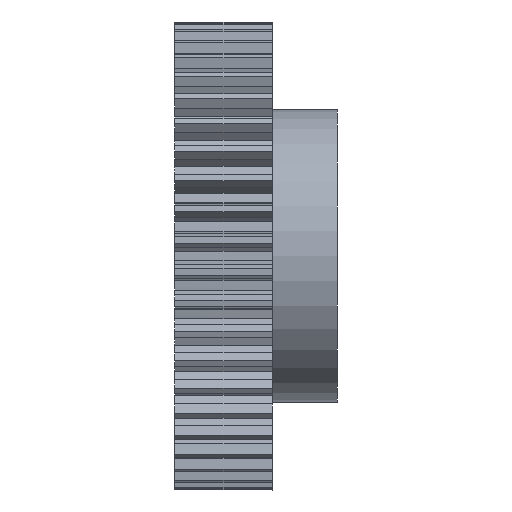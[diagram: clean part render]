
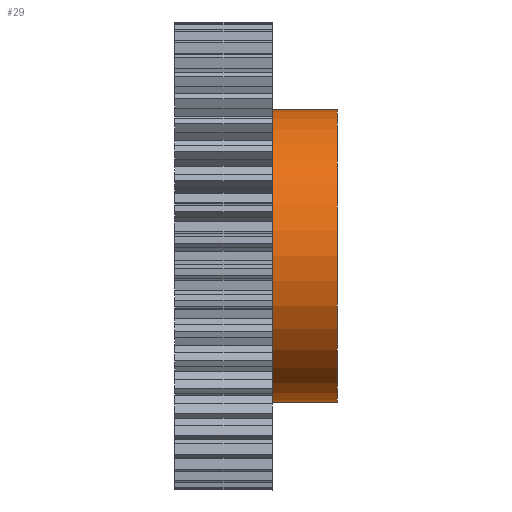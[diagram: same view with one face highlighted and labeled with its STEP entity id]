
A CAD part, front view. The second image highlights one B-rep face of the part: STEP entity #29.
In plain terms, the highlighted cylindrical face has radius 45 mm (diameter 90 mm), a partial arc.
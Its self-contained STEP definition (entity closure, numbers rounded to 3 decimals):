
#17 = ORIENTED_EDGE ( 'NONE', *, *, #1112, .T. ) ;
#28 = ORIENTED_EDGE ( 'NONE', *, *, #9513, .T. ) ;
#29 = ADVANCED_FACE ( 'NONE', ( #5233 ), #5229, .T. ) ;
#265 = EDGE_CURVE ( 'NONE', #1141, #1996, #5661, .T. ) ;
#1112 = EDGE_CURVE ( 'NONE', #1155, #1156, #7057, .T. ) ;
#1139 = EDGE_CURVE ( 'NONE', #1141, #1156, #7148, .T. ) ;
#1141 = VERTEX_POINT ( 'NONE', #7144 ) ;
#1155 = VERTEX_POINT ( 'NONE', #7172 ) ;
#1156 = VERTEX_POINT ( 'NONE', #7181 ) ;
#1334 = ORIENTED_EDGE ( 'NONE', *, *, #1139, .F. ) ;
#1996 = VERTEX_POINT ( 'NONE', #7833 ) ;
#4031 = DIRECTION ( 'NONE',  ( -1., 0., 0. ) ) ;
#4032 = VECTOR ( 'NONE', #4031, 1000. ) ;
#4043 = CARTESIAN_POINT ( 'NONE',  ( 15., 0., 45. ) ) ;
#4044 = LINE ( 'NONE', #4043, #4032 ) ;
#5207 = DIRECTION ( 'NONE',  ( -1., 0., 0. ) ) ;
#5221 = AXIS2_PLACEMENT_3D ( 'NONE', #5232, #5207, #5258 ) ;
#5229 = CYLINDRICAL_SURFACE ( 'NONE', #5221, 45. ) ;
#5232 = CARTESIAN_POINT ( 'NONE',  ( 15., 0., 0. ) ) ;
#5233 = FACE_OUTER_BOUND ( 'NONE', #9727, .T. ) ;
#5258 = DIRECTION ( 'NONE',  ( 0., 0., 1. ) ) ;
#5655 = DIRECTION ( 'NONE',  ( 0., 0., 1. ) ) ;
#5656 = DIRECTION ( 'NONE',  ( -1., 0., 0. ) ) ;
#5657 = CARTESIAN_POINT ( 'NONE',  ( 35., 0., 0. ) ) ;
#5658 = AXIS2_PLACEMENT_3D ( 'NONE', #5657, #5656, #5655 ) ;
#5661 = CIRCLE ( 'NONE', #5658, 45. ) ;
#7057 = CIRCLE ( 'NONE', #7092, 45. ) ;
#7089 = DIRECTION ( 'NONE',  ( 0., 0., 1. ) ) ;
#7090 = DIRECTION ( 'NONE',  ( 1., 0., 0. ) ) ;
#7091 = CARTESIAN_POINT ( 'NONE',  ( 15., 0., 0. ) ) ;
#7092 = AXIS2_PLACEMENT_3D ( 'NONE', #7091, #7090, #7089 ) ;
#7144 = CARTESIAN_POINT ( 'NONE',  ( 35., 0., -45. ) ) ;
#7145 = DIRECTION ( 'NONE',  ( -1., 0., 0. ) ) ;
#7146 = VECTOR ( 'NONE', #7145, 1000. ) ;
#7147 = CARTESIAN_POINT ( 'NONE',  ( 15., 0., -45. ) ) ;
#7148 = LINE ( 'NONE', #7147, #7146 ) ;
#7172 = CARTESIAN_POINT ( 'NONE',  ( 15., 0., 45. ) ) ;
#7181 = CARTESIAN_POINT ( 'NONE',  ( 15., 0., -45. ) ) ;
#7833 = CARTESIAN_POINT ( 'NONE',  ( 35., 0., 45. ) ) ;
#9513 = EDGE_CURVE ( 'NONE', #1996, #1155, #4044, .T. ) ;
#9726 = ORIENTED_EDGE ( 'NONE', *, *, #265, .T. ) ;
#9727 = EDGE_LOOP ( 'NONE', ( #1334, #9726, #28, #17 ) ) ;
